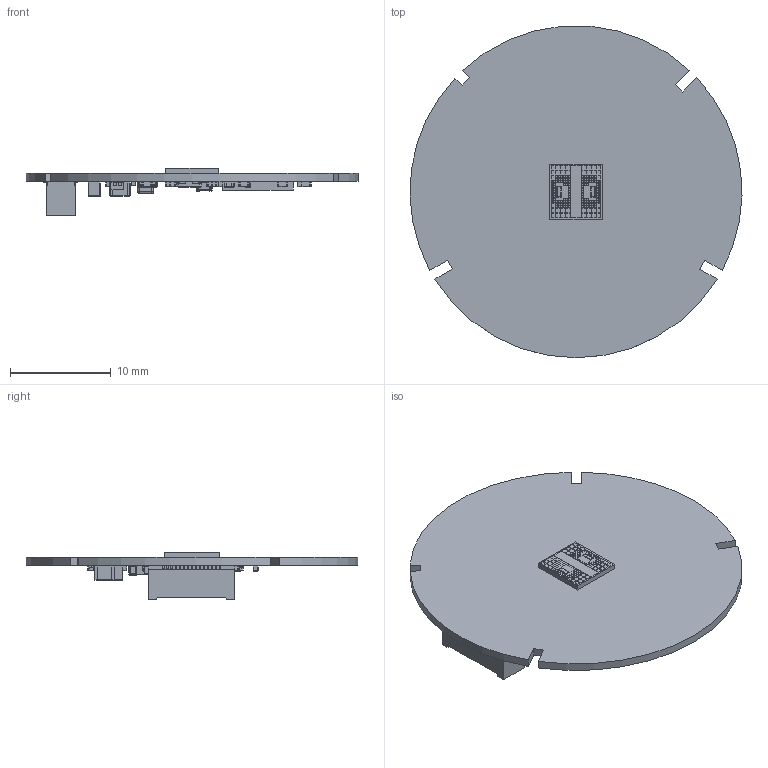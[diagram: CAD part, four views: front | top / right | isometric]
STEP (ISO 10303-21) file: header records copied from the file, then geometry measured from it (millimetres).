
FILE_DESCRIPTION(('Open CASCADE Model'),'2;1');
FILE_NAME('Open CASCADE Shape Model','2023-09-04T18:14:12',('Author'),( 'Open CASCADE'),'Open CASCADE STEP processor 7.5','Open CASCADE 7.5' ,'Unknown');
FILE_SCHEMA(('AUTOMOTIVE_DESIGN { 1 0 10303 214 1 1 1 1 }'));
Length unit declared in the file: millimetre
Products named in the file (105): PCB; Board; Open CASCADE STEP translator 7.5 2.1.1; L4; Ind_Murata_LQG15HN39NJ02D_eec; 1; 2; Murata Logo 3; 3; C23; 6153608624; Terminal; Open CASCADE STEP translator 6.8 26.1.1; Open CASCADE STEP translator 6.8 26.1.2; Mid_Body; Open CASCADE STEP translator 6.8 26.2.1; U6; IC_Texas_Instruments_TMP117MAIYBGR_eec; Texas Logo Yury - Copy; Texas Logo Yury; U2; 6276232096; Extruded; U5; A111_dark v1; Usersanton.evertssonDownloadsM122_PB8_V2; AP111_MODEL; X3; ECS-240-10-36B-7KM-TR; X2; FC-135 32.7680KA-AC0; X1; FA-20H 32.0000MF20X-K; U1; 6153606784; R2; 6153608704; Open CASCADE STEP translator 6.8 15.2.1; Mark; R1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
Assembly tree (127 placements, depth 5):
  PCB
    Board
      Open CASCADE STEP translator 7.5 2.1.1
    L4
      Ind_Murata_LQG15HN39NJ02D_eec
        1
        2
        Murata Logo 3
        3
    C23
      6153608624
        Terminal
          Open CASCADE STEP translator 6.8 26.1.1
          Open CASCADE STEP translator 6.8 26.1.2
        Mid_Body
          Open CASCADE STEP translator 6.8 26.2.1
    U6
      IC_Texas_Instruments_TMP117MAIYBGR_eec
        1
        2
        Texas Logo Yury - Copy
        Texas Logo Yury
    U2
      6276232096
        Extruded
    U5
      A111_dark v1
        Usersanton.evertssonDownloadsM122_PB8_V2
          AP111_MODEL
    X3
      ECS-240-10-36B-7KM-TR
    X2
      FC-135 32.7680KA-AC0
    X1
      FA-20H 32.0000MF20X-K
    U1
      6153606784
    R2
      6153608704
        Mid_Body
        Terminal  x2
          Open CASCADE STEP translator 6.8 15.2.1
        Mark
    R1
      6153610544
        Mid_Body
        Terminal  x2
          Open CASCADE STEP translator 6.8 15.2.1
        Mark
    L5
      Ind_Murata_1286AS-H-1R0M=P2_eec
        1
        2
        Murata Logo 3
    L3
      Ind_Murata_LQG15HN39NJ02D_eec
        1
        2
        Murata Logo 3
        3
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Bounding box: 32.99 x 32.94 x 4.71 mm (x, y, z)
Volume: 832.7 mm3; surface area: 2472.1 mm2
Topology: 339 solids, 339 shells, 4906 faces, 11877 edges, 7512 vertices
Faces by surface type: plane 3108, cylinder 1347, sphere 250, bspline 173, torus 16, cone 12
Full cylindrical faces by diameter (mm): 0.083 x1
Entity records: 108741 total; most frequent: CARTESIAN_POINT 20848, ORIENTED_EDGE 17250, DIRECTION 16889, EDGE_CURVE 8625, LINE 6711, VECTOR 6711, VERTEX_POINT 5652, AXIS2_PLACEMENT_3D 5089
